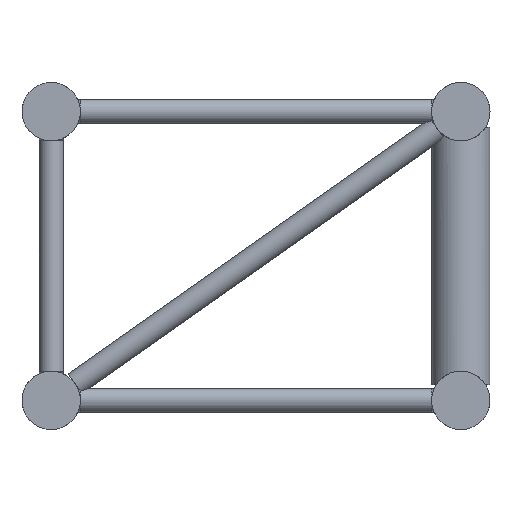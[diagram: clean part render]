
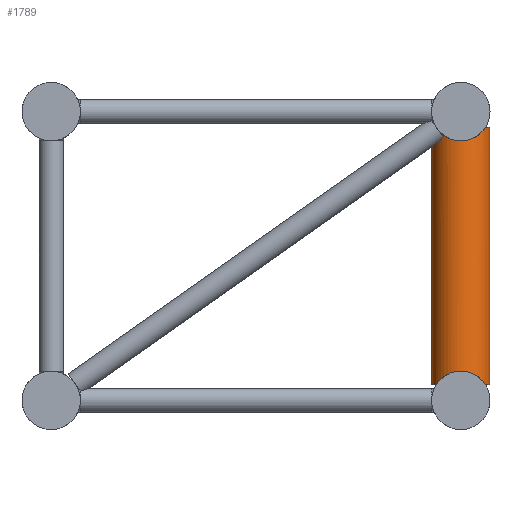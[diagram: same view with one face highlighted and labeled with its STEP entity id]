
A CAD part, left-side view. The second image highlights one B-rep face of the part: STEP entity #1789.
In plain terms, the highlighted cylindrical face has radius 24.15 mm (diameter 48.3 mm), a full revolution.
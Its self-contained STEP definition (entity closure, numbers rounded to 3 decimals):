
#36=ELLIPSE('',#1926,34.153,24.15);
#37=ELLIPSE('',#1927,34.153,24.15);
#39=ELLIPSE('',#1941,41.912,24.15);
#40=ELLIPSE('',#1942,34.153,24.15);
#41=ELLIPSE('',#1943,34.153,24.15);
#65=CIRCLE('',#1932,24.15);
#66=CIRCLE('',#1935,24.15);
#67=CIRCLE('',#1937,24.15);
#68=CIRCLE('',#1939,24.15);
#294=FACE_BOUND('',#545,.T.);
#415=FACE_OUTER_BOUND('',#544,.T.);
#544=EDGE_LOOP('',(#1264,#1265,#1266,#1267,#1268,#1269));
#545=EDGE_LOOP('',(#1270,#1271,#1272,#1273));
#744=B_SPLINE_CURVE_WITH_KNOTS('',3,(#3178,#3179,#3180,#3181,#3182,#3183,
#3184,#3185,#3186,#3187,#3188,#3189,#3190,#3191,#3192,#3193,#3194,#3195,
#3196,#3197,#3198,#3199),.UNSPECIFIED.,.F.,.F.,(4,2,2,2,2,2,2,2,2,2,4),
(2.68,3.039,3.447,3.855,4.02,
4.186,4.352,4.517,4.867,5.217,
5.696),.UNSPECIFIED.);
#827=VERTEX_POINT('',#3003);
#828=VERTEX_POINT('',#3004);
#829=VERTEX_POINT('',#3006);
#830=VERTEX_POINT('',#3008);
#839=VERTEX_POINT('',#3163);
#840=VERTEX_POINT('',#3167);
#841=VERTEX_POINT('',#3168);
#842=VERTEX_POINT('',#3172);
#843=VERTEX_POINT('',#3173);
#844=VERTEX_POINT('',#3177);
#1004=EDGE_CURVE('',#827,#828,#36,.T.);
#1006=EDGE_CURVE('',#829,#830,#37,.T.);
#1017=EDGE_CURVE('',#828,#829,#65,.T.);
#1019=EDGE_CURVE('',#830,#839,#66,.T.);
#1021=EDGE_CURVE('',#840,#841,#67,.T.);
#1023=EDGE_CURVE('',#842,#843,#68,.T.);
#1024=EDGE_CURVE('',#839,#844,#744,.T.);
#1025=EDGE_CURVE('',#844,#827,#39,.T.);
#1026=EDGE_CURVE('',#843,#840,#40,.T.);
#1027=EDGE_CURVE('',#841,#842,#41,.T.);
#1264=ORIENTED_EDGE('',*,*,#1024,.F.);
#1265=ORIENTED_EDGE('',*,*,#1019,.F.);
#1266=ORIENTED_EDGE('',*,*,#1006,.F.);
#1267=ORIENTED_EDGE('',*,*,#1017,.F.);
#1268=ORIENTED_EDGE('',*,*,#1004,.F.);
#1269=ORIENTED_EDGE('',*,*,#1025,.F.);
#1270=ORIENTED_EDGE('',*,*,#1026,.F.);
#1271=ORIENTED_EDGE('',*,*,#1023,.F.);
#1272=ORIENTED_EDGE('',*,*,#1027,.F.);
#1273=ORIENTED_EDGE('',*,*,#1021,.F.);
#1617=CYLINDRICAL_SURFACE('',#1940,24.15);
#1789=ADVANCED_FACE('',(#415,#294),#1617,.T.);
#1926=AXIS2_PLACEMENT_3D('',#3005,#2219,#2220);
#1927=AXIS2_PLACEMENT_3D('',#3009,#2222,#2223);
#1932=AXIS2_PLACEMENT_3D('',#3161,#2235,#2236);
#1935=AXIS2_PLACEMENT_3D('',#3165,#2241,#2242);
#1937=AXIS2_PLACEMENT_3D('',#3170,#2246,#2247);
#1939=AXIS2_PLACEMENT_3D('',#3175,#2251,#2252);
#1940=AXIS2_PLACEMENT_3D('',#3176,#2253,#2254);
#1941=AXIS2_PLACEMENT_3D('',#3200,#2255,#2256);
#1942=AXIS2_PLACEMENT_3D('',#3201,#2257,#2258);
#1943=AXIS2_PLACEMENT_3D('',#3202,#2259,#2260);
#2219=DIRECTION('center_axis',(-0.707,0.,0.707));
#2220=DIRECTION('ref_axis',(-0.707,0.,-0.707));
#2222=DIRECTION('center_axis',(0.707,0.,0.707));
#2223=DIRECTION('ref_axis',(-0.707,0.,0.707));
#2235=DIRECTION('center_axis',(0.,0.,
1.));
#2236=DIRECTION('ref_axis',(-1.,0.,0.));
#2241=DIRECTION('center_axis',(0.,0.,
1.));
#2242=DIRECTION('ref_axis',(-1.,0.,0.));
#2246=DIRECTION('center_axis',(0.,0.,
-1.));
#2247=DIRECTION('ref_axis',(-1.,0.,0.));
#2251=DIRECTION('center_axis',(0.,0.,
-1.));
#2252=DIRECTION('ref_axis',(-1.,0.,0.));
#2253=DIRECTION('center_axis',(0.,0.,1.));
#2254=DIRECTION('ref_axis',(-1.,0.,0.));
#2255=DIRECTION('center_axis',(0.,0.817,
-0.576));
#2256=DIRECTION('ref_axis',(0.,-0.576,-0.817));
#2257=DIRECTION('center_axis',(0.707,0.,-0.707));
#2258=DIRECTION('ref_axis',(-0.707,0.,-0.707));
#2259=DIRECTION('center_axis',(-0.707,0.,-0.707));
#2260=DIRECTION('ref_axis',(-0.707,0.,0.707));
#3003=CARTESIAN_POINT('',(57.303,17.304,-16.847));
#3004=CARTESIAN_POINT('',(61.,-20.256,-13.15));
#3005=CARTESIAN_POINT('Origin',(74.15,0.,0.));
#3006=CARTESIAN_POINT('',(87.3,-20.256,-13.15));
#3008=CARTESIAN_POINT('',(87.3,20.256,-13.15));
#3009=CARTESIAN_POINT('Origin',(74.15,0.,0.));
#3161=CARTESIAN_POINT('Origin',(74.15,0.,-13.15));
#3163=CARTESIAN_POINT('',(69.566,23.711,-13.15));
#3165=CARTESIAN_POINT('Origin',(74.15,0.,-13.15));
#3167=CARTESIAN_POINT('',(87.3,-20.256,-225.85));
#3168=CARTESIAN_POINT('',(61.,-20.256,-225.85));
#3170=CARTESIAN_POINT('Origin',(74.15,0.,-225.85));
#3172=CARTESIAN_POINT('',(61.,20.256,-225.85));
#3173=CARTESIAN_POINT('',(87.3,20.256,-225.85));
#3175=CARTESIAN_POINT('Origin',(74.15,0.,-225.85));
#3176=CARTESIAN_POINT('Origin',(74.15,0.,-225.85));
#3177=CARTESIAN_POINT('',(54.872,14.545,-20.759));
#3178=CARTESIAN_POINT('Ctrl Pts',(69.566,23.711,-13.15));
#3179=CARTESIAN_POINT('Ctrl Pts',(69.855,23.767,-14.351));
#3180=CARTESIAN_POINT('Ctrl Pts',(70.,23.791,-15.575));
#3181=CARTESIAN_POINT('Ctrl Pts',(70.,23.791,-18.133));
#3182=CARTESIAN_POINT('Ctrl Pts',(69.805,23.76,-19.606));
#3183=CARTESIAN_POINT('Ctrl Pts',(68.924,23.582,-22.355));
#3184=CARTESIAN_POINT('Ctrl Pts',(68.242,23.435,-23.633));
#3185=CARTESIAN_POINT('Ctrl Pts',(66.993,23.068,-25.034));
#3186=CARTESIAN_POINT('Ctrl Pts',(66.582,22.938,-25.41));
#3187=CARTESIAN_POINT('Ctrl Pts',(65.685,22.623,-26.039));
#3188=CARTESIAN_POINT('Ctrl Pts',(65.2,22.437,-26.293));
#3189=CARTESIAN_POINT('Ctrl Pts',(64.199,22.011,-26.644));
#3190=CARTESIAN_POINT('Ctrl Pts',(63.682,21.771,-26.743));
#3191=CARTESIAN_POINT('Ctrl Pts',(62.666,21.252,-26.794));
#3192=CARTESIAN_POINT('Ctrl Pts',(62.167,20.975,-26.746));
#3193=CARTESIAN_POINT('Ctrl Pts',(60.719,20.104,-26.438));
#3194=CARTESIAN_POINT('Ctrl Pts',(59.897,19.519,-26.03));
#3195=CARTESIAN_POINT('Ctrl Pts',(58.405,18.336,-25.041));
#3196=CARTESIAN_POINT('Ctrl Pts',(57.74,17.739,-24.451));
#3197=CARTESIAN_POINT('Ctrl Pts',(56.282,16.29,-22.894));
#3198=CARTESIAN_POINT('Ctrl Pts',(55.539,15.43,-21.871));
#3199=CARTESIAN_POINT('Ctrl Pts',(54.872,14.545,-20.759));
#3200=CARTESIAN_POINT('Origin',(74.15,0.,-41.39));
#3201=CARTESIAN_POINT('Origin',(74.15,0.,-239.));
#3202=CARTESIAN_POINT('Origin',(74.15,0.,-239.));
